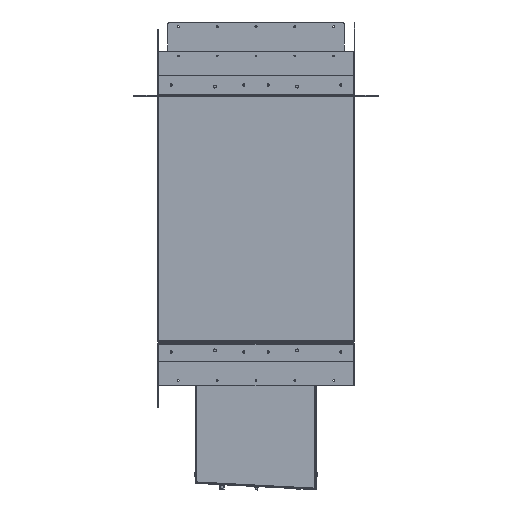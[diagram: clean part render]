
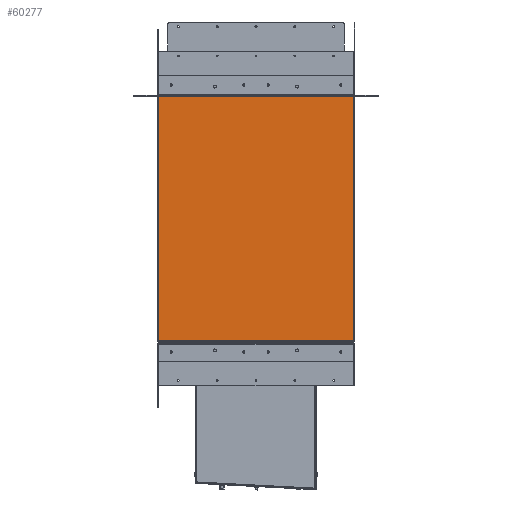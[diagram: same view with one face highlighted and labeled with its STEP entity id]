
A CAD part, left-side view. The second image highlights one B-rep face of the part: STEP entity #60277.
In plain terms, the highlighted planar face has unit normal (-1, 0, 0) as drawn and (0, 0, 1) by its records, which use the part's own axes.
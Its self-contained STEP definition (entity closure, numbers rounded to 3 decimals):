
#967 = DIRECTION ( 'NONE',  ( -1., 0., 0. ) ) ;
#3879 = ORIENTED_EDGE ( 'NONE', *, *, #42032, .F. ) ;
#6518 = VECTOR ( 'NONE', #106483, 1000. ) ;
#8092 = VECTOR ( 'NONE', #967, 1000. ) ;
#10188 = ORIENTED_EDGE ( 'NONE', *, *, #28042, .F. ) ;
#11241 = DIRECTION ( 'NONE',  ( 0., 1., 0. ) ) ;
#14445 = VERTEX_POINT ( 'NONE', #72313 ) ;
#15341 = FACE_OUTER_BOUND ( 'NONE', #66280, .T. ) ;
#20130 = LINE ( 'NONE', #54937, #69915 ) ;
#21767 = VERTEX_POINT ( 'NONE', #46388 ) ;
#28042 = EDGE_CURVE ( 'NONE', #14445, #32796, #80201, .T. ) ;
#28288 = LINE ( 'NONE', #80696, #8092 ) ;
#32796 = VERTEX_POINT ( 'NONE', #102186 ) ;
#34075 = EDGE_CURVE ( 'NONE', #32796, #39665, #55194, .T. ) ;
#38114 = AXIS2_PLACEMENT_3D ( 'NONE', #67211, #101428, #101984 ) ;
#39665 = VERTEX_POINT ( 'NONE', #51377 ) ;
#42032 = EDGE_CURVE ( 'NONE', #39665, #21767, #20130, .T. ) ;
#46388 = CARTESIAN_POINT ( 'NONE',  ( 201., -252., 1. ) ) ;
#51377 = CARTESIAN_POINT ( 'NONE',  ( 201., 252., 1. ) ) ;
#54617 = CARTESIAN_POINT ( 'NONE',  ( -201.293, 252., 1. ) ) ;
#54937 = CARTESIAN_POINT ( 'NONE',  ( 201., 252.293, 1. ) ) ;
#55194 = LINE ( 'NONE', #54617, #6518 ) ;
#60277 = ADVANCED_FACE ( 'NONE', ( #15341 ), #68868, .T. ) ;
#66280 = EDGE_LOOP ( 'NONE', ( #85950, #3879, #67960, #10188 ) ) ;
#67211 = CARTESIAN_POINT ( 'NONE',  ( 0., 0., 1. ) ) ;
#67960 = ORIENTED_EDGE ( 'NONE', *, *, #34075, .F. ) ;
#68868 = PLANE ( 'NONE',  #38114 ) ;
#69915 = VECTOR ( 'NONE', #89685, 1000. ) ;
#72313 = CARTESIAN_POINT ( 'NONE',  ( -201., -252., 1. ) ) ;
#79628 = CARTESIAN_POINT ( 'NONE',  ( -201., -252.293, 1. ) ) ;
#80201 = LINE ( 'NONE', #79628, #98387 ) ;
#80696 = CARTESIAN_POINT ( 'NONE',  ( 201.293, -252., 1. ) ) ;
#81195 = EDGE_CURVE ( 'NONE', #21767, #14445, #28288, .T. ) ;
#85950 = ORIENTED_EDGE ( 'NONE', *, *, #81195, .F. ) ;
#89685 = DIRECTION ( 'NONE',  ( 0., -1., 0. ) ) ;
#98387 = VECTOR ( 'NONE', #11241, 1000. ) ;
#101428 = DIRECTION ( 'NONE',  ( 0., 0., 1. ) ) ;
#101984 = DIRECTION ( 'NONE',  ( 1., 0., 0. ) ) ;
#102186 = CARTESIAN_POINT ( 'NONE',  ( -201., 252., 1. ) ) ;
#106483 = DIRECTION ( 'NONE',  ( 1., 0., 0. ) ) ;
